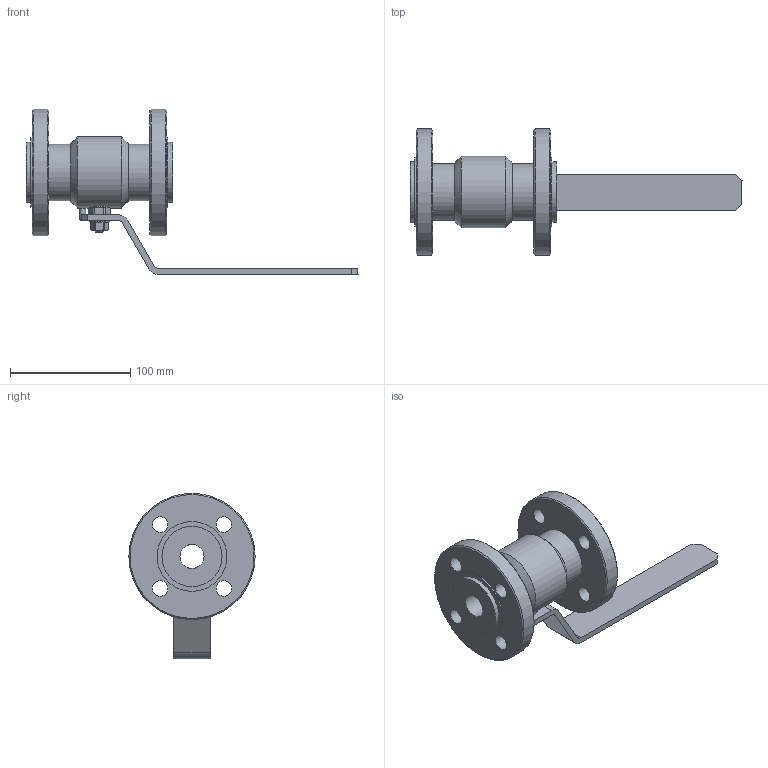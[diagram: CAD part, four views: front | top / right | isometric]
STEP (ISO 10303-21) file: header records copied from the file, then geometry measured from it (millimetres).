
FILE_DESCRIPTION(('STEP AP203'), '1');
FILE_NAME('ZARDP 020.025.22.P.stp', '2013-12-05T11:16:02', ('1'), ('1'), 'ASCON STEP Converter 1.3', 'Kompas 3D', '');
FILE_SCHEMA(('CONFIG_CONTROL_DESIGN','SUPPORT_RESOURCE_SCHEMA'));
Length unit declared in the file: millimetre
Products named in the file (1): 145
Bounding box: 276 x 105 x 137.5 mm (x, y, z)
Volume: 421041.5 mm3; surface area: 89431.6 mm2
Topology: 1 solids, 3 shells, 172 faces, 384 edges, 239 vertices
Faces by surface type: plane 90, cylinder 53, cone 26, torus 3
Full cylindrical faces by diameter (mm): 5 x2, 8 x1, 10.7 x1, 10.917 x1, 12 x1, 12.1 x1, 13 x8, 19.8 x1, 20 x4, 38.4 x1, 47 x2, 50 x2, 58 x2, 59.3 x1, 105 x2
Entity records: 5691 total; most frequent: CARTESIAN_POINT 1660, DIRECTION 866, ORIENTED_EDGE 768, EDGE_CURVE 384, AXIS2_PLACEMENT_3D 337, VERTEX_POINT 239, EDGE_LOOP 213, LINE 192
